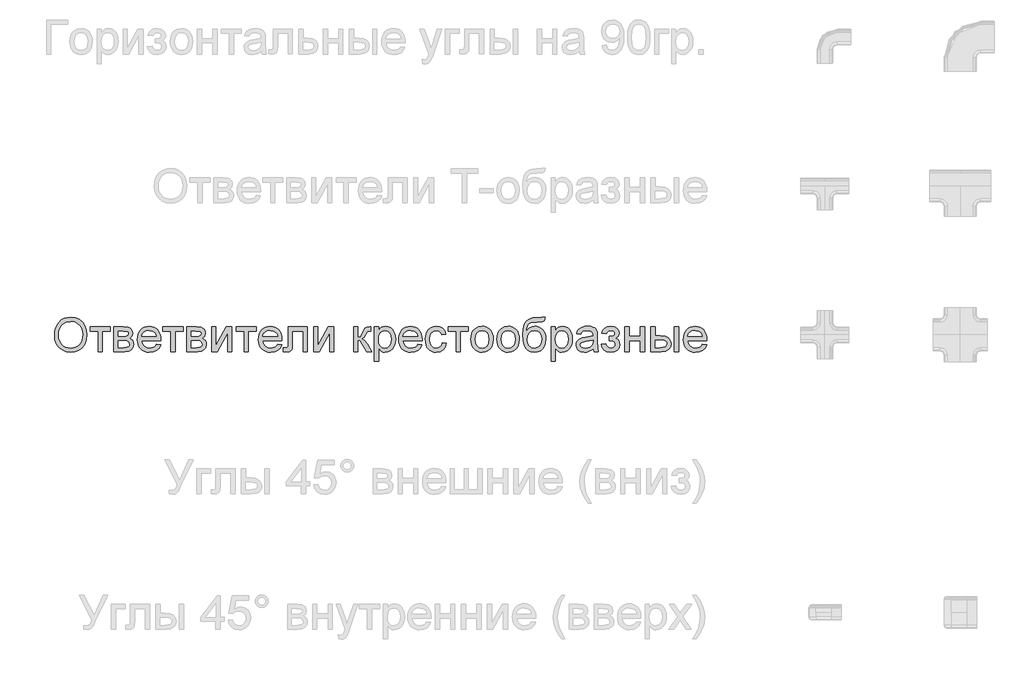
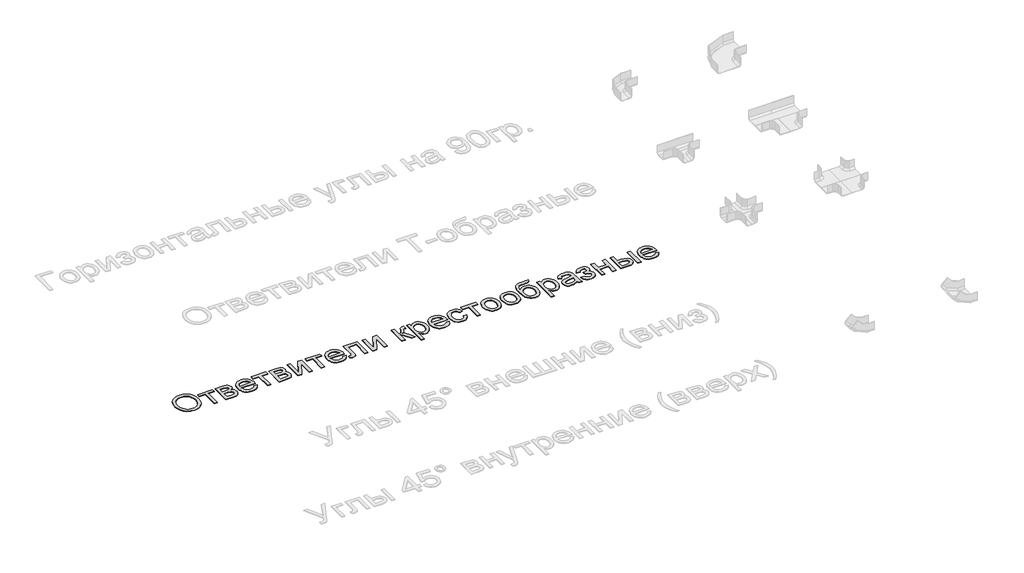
# One storey, part 5 of 11: 1 proxy.
"""IFC4 building model written with IfcOpenShell, lengths in millimetres."""

from ifc_helpers import new_model, si_unit, origin, origin_with_axes, place, context, project, spatial, polyline, outline, extrude, element, save

model = new_model("IFC4")

# Units and contexts
model_context = context("Model", 3, world=origin())
ifc_project = project(units=[si_unit("LENGTHUNIT", "METRE", prefix="MILLI")], contexts=[model_context])

# Site, building, storey
site = spatial("IfcSite", under=ifc_project)
building = spatial("IfcBuilding", under=site)
storey = spatial("IfcBuildingStorey", under=building, Name="Этаж 01", Elevation=0.0)

# Proxy
placement = place(None, origin())
element("IfcBuildingElementProxy", 1, Name="АБН_Маленькая надпись", ObjectType="АБН_Маленькая надпись", at=placement, inside=storey, context=model_context, shape_type="SweptSolid", body=[
    extrude(outline(polyline([(-19409.3931179, 4703.789007), (-19407.300789, 4733.2463913), (-19401.0238025, 4759.3238599), (-19390.5621583, 4782.0214125), (-19375.9158563, 4801.3390494), (-19357.9624485, 4816.7632685), (-19337.5794868, 4827.7805678), (-19314.7669709, 4834.3909474), (-19289.5249011, 4836.5944073), (-19256.5841341, 4832.4557348), (-19227.0462756, 4820.0397175), (-19202.5208093, 4800.220075), (-19184.6172188, 4773.8705271), (-19173.6727295, 4742.2633323), (-19170.0245664, 4706.6707493), (-19173.8643347, 4670.6029854), (-19185.3836397, 4638.5512665), (-19203.946352, 4612.1557334), (-19228.9163424, 4593.0565265), (-19258.2012821, 4581.4682436), (-19289.7088421, 4577.6054827), (-19323.1554469, 4581.8744466), (-19352.861918, 4594.6813386), (-19377.3260706, 4614.8688631), (-19395.0457201, 4641.2797247), (-19405.8062684, 4671.6683103), (-19409.3931179, 4703.789007)]), holes=[polyline([(-19378.000521, 4703.4824387), (-19376.4312743, 4682.6702812), (-19371.7235344, 4664.1957073), (-19363.8773013, 4648.0587168), (-19352.8925748, 4634.2593099), (-19339.539608, 4623.2075216), (-19324.5886538, 4615.3133872), (-19308.0397122, 4610.5769065), (-19289.8927831, 4608.9980796), (-19271.4354537, 4610.5922349), (-19254.6910747, 4615.3747008), (-19239.6596463, 4623.3454774), (-19226.3411685, 4634.5045646), (-19215.4369162, 4648.5952114), (-19207.6481646, 4665.3606669), (-19202.9749136, 4684.8009311), (-19201.4171633, 4706.916004), (-19204.0843078, 4734.706423), (-19212.0857411, 4758.7260516), (-19225.2145299, 4778.3694173), (-19243.2637402, 4793.0310477), (-19265.0377558, 4802.1591197), (-19289.3409601, 4805.2018103), (-19323.1094616, 4799.338691), (-19351.8195856, 4781.7493331), (-19363.2737449, 4768.0629733), (-19371.4552871, 4750.4563709), (-19376.3642125, 4728.9295261), (-19378.000521, 4703.4824387)])]), origin_with_axes(), (0.0, 0.0, 1.0), 5.0),
    extrude(outline(polyline([(-19146.4801187, 4765.9610642), (-18997.3652833, 4765.9610642), (-18997.3652833, 4734.5684673), (-19056.2264025, 4734.5684673), (-19056.2264025, 4581.5295573), (-19087.6189994, 4581.5295573), (-19087.6189994, 4734.5684673), (-19146.4801187, 4734.5684673), (-19146.4801187, 4765.9610642)])), origin_with_axes(), (0.0, 0.0, 1.0), 5.0),
    extrude(outline(polyline([(-18969.896761, 4765.9610642), (-18900.7349459, 4765.9610642), (-18862.8124436, 4761.7610781), (-18851.270146, 4755.8136525), (-18841.4752878, 4746.3713479), (-18834.7844341, 4734.0702937), (-18832.5541495, 4719.5466191), (-18837.9497521, 4697.7496109), (-18854.1978735, 4682.2065966), (-18842.5789338, 4675.6843554), (-18833.1059724, 4665.1920543), (-18826.8059933, 4651.5574279), (-18824.7060002, 4635.6082106), (-18830.0249607, 4611.6805525), (-18842.6709043, 4594.8346228), (-18862.6898162, 4584.8558236), (-18890.1276817, 4581.5295573), (-18969.896761, 4581.5295573), (-18969.896761, 4765.9610642)]), holes=[polyline([(-18938.5041641, 4695.3277211), (-18907.4794491, 4695.3277211), (-18881.8809936, 4696.9218764), (-18869.4343195, 4703.2984977), (-18863.9467464, 4714.8254669), (-18866.3533078, 4724.1911293), (-18873.5729919, 4730.215197), (-18906.4984305, 4734.5684673), (-18938.5041641, 4734.5684673), (-18938.5041641, 4695.3277211)]), polyline([(-18938.5041641, 4612.9221542), (-18899.9991819, 4612.9221542), (-18879.0145798, 4614.3400327), (-18865.84747, 4618.5936683), (-18858.78107, 4626.3268544), (-18856.0985971, 4638.1833845), (-18861.4635429, 4653.2972032), (-18875.4430587, 4662.0957142), (-18903.0648652, 4663.9351242), (-18938.5041641, 4663.9351242), (-18938.5041641, 4612.9221542)])]), origin_with_axes(), (0.0, 0.0, 1.0), 5.0),
    extrude(outline(polyline([(-18656.3386738, 4636.4666019), (-18625.5592135, 4632.5425273), (-18636.6493228, 4609.3506332), (-18654.3459796, 4592.0141941), (-18678.2506451, 4581.2076605), (-18707.9647804, 4577.6054827), (-18727.4433656, 4579.1594009), (-18744.7989652, 4583.8211555), (-18760.0315791, 4591.5907466), (-18773.1412072, 4602.4681742), (-18783.6833257, 4616.1507019), (-18791.2134102, 4632.3355937), (-18795.731461, 4651.0228494), (-18797.2374779, 4672.2124691), (-18795.7161326, 4694.1206083), (-18791.1520966, 4713.430581), (-18783.5453699, 4730.142387), (-18772.8959526, 4744.2560265), (-18759.8208133, 4755.4687631), (-18744.9369209, 4763.4778607), (-18728.2442754, 4768.2833193), (-18709.7428767, 4769.8851388), (-18691.8373703, 4768.2871514), (-18675.6448143, 4763.4931891), (-18661.1652089, 4755.5032521), (-18648.398554, 4744.3173401), (-18637.9771469, 4730.2343575), (-18630.5332846, 4713.5532083), (-18626.0669673, 4694.2738925), (-18624.5781949, 4672.3964101), (-18624.7621358, 4663.9351242), (-18765.844881, 4663.9351242), (-18760.4109574, 4640.4366618), (-18747.7880064, 4623.1615364), (-18729.5701834, 4612.5389438), (-18707.3516438, 4608.9980796), (-18690.6436698, 4610.6382201), (-18676.5721835, 4615.5586418), (-18665.1371848, 4624.065913), (-18656.3386738, 4636.4666019)]), holes=[polyline([(-18765.844881, 4695.3277211), (-18655.9707918, 4695.3277211), (-18660.2167631, 4711.9130677), (-18668.5400933, 4723.7772621), (-18686.8422225, 4734.8137219), (-18709.8655041, 4738.4925419), (-18731.026383, 4735.5571501), (-18748.5237704, 4726.7509749), (-18760.6868689, 4713.0243779), (-18765.844881, 4695.3277211)])]), origin_with_axes(), (0.0, 0.0, 1.0), 5.0),
    extrude(outline(polyline([(-18608.8818964, 4765.9610642), (-18459.767061, 4765.9610642), (-18459.767061, 4734.5684673), (-18518.6281802, 4734.5684673), (-18518.6281802, 4581.5295573), (-18550.0207772, 4581.5295573), (-18550.0207772, 4734.5684673), (-18608.8818964, 4734.5684673), (-18608.8818964, 4765.9610642)])), origin_with_axes(), (0.0, 0.0, 1.0), 5.0),
    extrude(outline(polyline([(-18432.2985387, 4765.9610642), (-18363.1367236, 4765.9610642), (-18325.2142213, 4761.7610781), (-18313.6719237, 4755.8136525), (-18303.8770656, 4746.3713479), (-18297.1862118, 4734.0702937), (-18294.9559272, 4719.5466191), (-18300.3515298, 4697.7496109), (-18316.5996512, 4682.2065966), (-18304.9807115, 4675.6843554), (-18295.5077502, 4665.1920543), (-18289.207771, 4651.5574279), (-18287.1077779, 4635.6082106), (-18292.4267385, 4611.6805525), (-18305.072682, 4594.8346228), (-18325.0915939, 4584.8558236), (-18352.5294594, 4581.5295573), (-18432.2985387, 4581.5295573), (-18432.2985387, 4765.9610642)]), holes=[polyline([(-18400.9059418, 4695.3277211), (-18369.8812269, 4695.3277211), (-18344.2827714, 4696.9218764), (-18331.8360972, 4703.2984977), (-18326.3485241, 4714.8254669), (-18328.7550855, 4724.1911293), (-18335.9747696, 4730.215197), (-18368.9002082, 4734.5684673), (-18400.9059418, 4734.5684673), (-18400.9059418, 4695.3277211)]), polyline([(-18400.9059418, 4612.9221542), (-18362.4009596, 4612.9221542), (-18341.4163575, 4614.3400327), (-18328.2492477, 4618.5936683), (-18321.1828477, 4626.3268544), (-18318.5003749, 4638.1833845), (-18323.8653206, 4653.2972032), (-18337.8448364, 4662.0957142), (-18365.4666429, 4663.9351242), (-18400.9059418, 4663.9351242), (-18400.9059418, 4612.9221542)])]), origin_with_axes(), (0.0, 0.0, 1.0), 5.0),
    extrude(outline(polyline([(-18247.8670318, 4765.9610642), (-18216.4744349, 4765.9610642), (-18216.4744349, 4625.3075147), (-18139.3418432, 4765.9610642), (-18098.7521964, 4765.9610642), (-18098.7521964, 4581.5295573), (-18130.1447933, 4581.5295573), (-18130.1447933, 4721.3247154), (-18206.7868757, 4581.5295573), (-18247.8670318, 4581.5295573), (-18247.8670318, 4765.9610642)])), origin_with_axes(), (0.0, 0.0, 1.0), 5.0),
    extrude(outline(polyline([(-18067.3595995, 4765.9610642), (-17918.2447641, 4765.9610642), (-17918.2447641, 4734.5684673), (-17977.1058833, 4734.5684673), (-17977.1058833, 4581.5295573), (-18008.4984803, 4581.5295573), (-18008.4984803, 4734.5684673), (-18067.3595995, 4734.5684673), (-18067.3595995, 4765.9610642)])), origin_with_axes(), (0.0, 0.0, 1.0), 5.0),
    extrude(outline(polyline([(-17761.6496615, 4636.4666019), (-17730.8702012, 4632.5425273), (-17741.9603105, 4609.3506332), (-17759.6569674, 4592.0141941), (-17783.5616328, 4581.2076605), (-17813.2757682, 4577.6054827), (-17832.7543534, 4579.1594009), (-17850.1099529, 4583.8211555), (-17865.3425668, 4591.5907466), (-17878.452195, 4602.4681742), (-17888.9943134, 4616.1507019), (-17896.524398, 4632.3355937), (-17901.0424487, 4651.0228494), (-17902.5484657, 4672.2124691), (-17901.0271203, 4694.1206083), (-17896.4630843, 4713.430581), (-17888.8563576, 4730.142387), (-17878.2069403, 4744.2560265), (-17865.1318011, 4755.4687631), (-17850.2479087, 4763.4778607), (-17833.5552631, 4768.2833193), (-17815.0538645, 4769.8851388), (-17797.148358, 4768.2871514), (-17780.955802, 4763.4931891), (-17766.4761966, 4755.5032521), (-17753.7095418, 4744.3173401), (-17743.2881346, 4730.2343575), (-17735.8442724, 4713.5532083), (-17731.377955, 4694.2738925), (-17729.8891826, 4672.3964101), (-17730.0731236, 4663.9351242), (-17871.1558687, 4663.9351242), (-17865.7219451, 4640.4366618), (-17853.0989941, 4623.1615364), (-17834.8811712, 4612.5389438), (-17812.6626315, 4608.9980796), (-17795.9546575, 4610.6382201), (-17781.8831712, 4615.5586418), (-17770.4481725, 4624.065913), (-17761.6496615, 4636.4666019)]), holes=[polyline([(-17871.1558687, 4695.3277211), (-17761.2817795, 4695.3277211), (-17765.5277509, 4711.9130677), (-17773.851081, 4723.7772621), (-17792.1532103, 4734.8137219), (-17815.1764918, 4738.4925419), (-17836.3373707, 4735.5571501), (-17853.8347581, 4726.7509749), (-17865.9978566, 4713.0243779), (-17871.1558687, 4695.3277211)])]), origin_with_axes(), (0.0, 0.0, 1.0), 5.0),
    extrude(outline(polyline([(-17682.8002872, 4765.9610642), (-17541.5336011, 4765.9610642), (-17541.5336011, 4581.7134983), (-17572.926198, 4581.7134983), (-17572.926198, 4734.5684673), (-17651.4076903, 4734.5684673), (-17651.4076903, 4646.5833568), (-17653.5230117, 4605.99371), (-17657.4854074, 4596.8043243), (-17665.1419514, 4588.8565403), (-17676.7608911, 4583.361303), (-17692.6104737, 4581.5295573), (-17718.1169587, 4583.1237126), (-17718.1169587, 4612.9221542), (-17704.0761293, 4612.9221542), (-17689.8820156, 4614.8535347), (-17684.2105015, 4620.9849013), (-17682.8002872, 4648.3614531), (-17682.8002872, 4765.9610642)])), origin_with_axes(), (0.0, 0.0, 1.0), 5.0),
    extrude(outline(polyline([(-17494.4447057, 4765.9610642), (-17463.0521087, 4765.9610642), (-17463.0521087, 4625.3075147), (-17385.9195171, 4765.9610642), (-17345.3298703, 4765.9610642), (-17345.3298703, 4581.5295573), (-17376.7224672, 4581.5295573), (-17376.7224672, 4721.3247154), (-17453.3645495, 4581.5295573), (-17494.4447057, 4581.5295573), (-17494.4447057, 4765.9610642)])), origin_with_axes(), (0.0, 0.0, 1.0), 5.0),
    extrude(outline(polyline([(-17200.1391095, 4765.9610642), (-17168.7465126, 4765.9610642), (-17168.7465126, 4687.4795719), (-17155.9779417, 4688.8897862), (-17147.7159252, 4693.1204291), (-17130.4867851, 4725.984554), (-17116.1700441, 4754.3421245), (-17103.539429, 4763.5698312), (-17080.5774611, 4765.9610642), (-17074.5687218, 4765.9610642), (-17074.5687218, 4734.3845263), (-17083.0300077, 4734.5684673), (-17098.3584242, 4731.2575293), (-17109.1496294, 4710.5948239), (-17121.8109014, 4688.2459927), (-17139.5612077, 4677.3015034), (-17119.7568936, 4665.0847554), (-17100.3204615, 4639.3483442), (-17066.7205726, 4581.5295573), (-17102.4051261, 4581.5295573), (-17135.3305647, 4638.1220709), (-17151.8852545, 4662.0650574), (-17159.6261048, 4666.4106635), (-17168.7465126, 4667.8591988), (-17168.7465126, 4581.5295573), (-17200.1391095, 4581.5295573), (-17200.1391095, 4765.9610642)])), origin_with_axes(), (0.0, 0.0, 1.0), 5.0),
    extrude(outline(polyline([(-17047.1001995, 4510.8962142), (-17047.1001995, 4765.9610642), (-17015.7076026, 4765.9610642), (-17015.7076026, 4735.1816039), (-17005.4682204, 4750.3644004), (-16994.0025649, 4761.2092551), (-16980.6361857, 4767.7161679), (-16964.6946326, 4769.8851388), (-16943.4647758, 4766.8501123), (-16924.9020635, 4757.745033), (-16909.7882448, 4743.1217237), (-16898.9050691, 4723.5320074), (-16892.3291785, 4700.401427), (-16890.1372149, 4675.155525), (-16892.6127542, 4648.3078036), (-16900.039372, 4624.2958392), (-16912.1794778, 4604.338241), (-16928.7954813, 4589.653618), (-16948.147607, 4580.6175165), (-16968.4960799, 4577.6054827), (-16982.927784, 4579.6211694), (-16995.811318, 4585.6682297), (-17015.7076026, 4606.0550236), (-17015.7076026, 4510.8962142), (-17047.1001995, 4510.8962142)]), holes=[polyline([(-17015.7076026, 4672.2737828), (-17012.3123584, 4644.1308101), (-17002.1266256, 4624.4491234), (-16987.0971133, 4612.8608405), (-16969.1705302, 4608.9980796), (-16950.9527073, 4612.9987963), (-16935.5399845, 4625.0009464), (-16925.032355, 4645.4030687), (-16921.5298118, 4674.6037021), (-16924.9480487, 4702.5933905), (-16935.2027593, 4722.5509888), (-16950.2092791, 4734.5071536), (-16967.8829432, 4738.4925419), (-16985.6255853, 4734.2542347), (-17001.2069206, 4721.5393133), (-17012.0824321, 4700.7463163), (-17015.7076026, 4672.2737828)])]), origin_with_axes(), (0.0, 0.0, 1.0), 5.0),
    extrude(outline(polyline([(-16725.6939631, 4636.4666019), (-16694.9145028, 4632.5425273), (-16706.0046121, 4609.3506332), (-16723.7012689, 4592.0141941), (-16747.6059344, 4581.2076605), (-16777.3200697, 4577.6054827), (-16796.798655, 4579.1594009), (-16814.1542545, 4583.8211555), (-16829.3868684, 4591.5907466), (-16842.4964965, 4602.4681742), (-16853.038615, 4616.1507019), (-16860.5686996, 4632.3355937), (-16865.0867503, 4651.0228494), (-16866.5927672, 4672.2124691), (-16865.0714219, 4694.1206083), (-16860.5073859, 4713.430581), (-16852.9006592, 4730.142387), (-16842.2512419, 4744.2560265), (-16829.1761026, 4755.4687631), (-16814.2922103, 4763.4778607), (-16797.5995647, 4768.2833193), (-16779.098166, 4769.8851388), (-16761.1926596, 4768.2871514), (-16745.0001036, 4763.4931891), (-16730.5204982, 4755.5032521), (-16717.7538434, 4744.3173401), (-16707.3324362, 4730.2343575), (-16699.888574, 4713.5532083), (-16695.4222566, 4694.2738925), (-16693.9334842, 4672.3964101), (-16694.1174252, 4663.9351242), (-16835.2001703, 4663.9351242), (-16829.7662467, 4640.4366618), (-16817.1432957, 4623.1615364), (-16798.9254727, 4612.5389438), (-16776.7069331, 4608.9980796), (-16759.9989591, 4610.6382201), (-16745.9274728, 4615.5586418), (-16734.4924741, 4624.065913), (-16725.6939631, 4636.4666019)]), holes=[polyline([(-16835.2001703, 4695.3277211), (-16725.3260811, 4695.3277211), (-16729.5720524, 4711.9130677), (-16737.8953826, 4723.7772621), (-16756.1975118, 4734.8137219), (-16779.2207934, 4738.4925419), (-16800.3816723, 4735.5571501), (-16817.8790597, 4726.7509749), (-16830.0421582, 4713.0243779), (-16835.2001703, 4695.3277211)])]), origin_with_axes(), (0.0, 0.0, 1.0), 5.0),
    extrude(outline(polyline([(-16544.8186488, 4648.2388257), (-16513.4260519, 4644.3147511), (-16522.1785777, 4616.3940405), (-16538.6259685, 4595.2944753), (-16561.2200544, 4582.0277308), (-16588.4126652, 4577.6054827), (-16606.0192676, 4579.1479046), (-16621.8056205, 4583.7751703), (-16635.7717239, 4591.4872798), (-16647.9175779, 4602.2842332), (-16657.748841, 4615.9629288), (-16664.7711718, 4632.3202652), (-16670.3890365, 4673.0708604), (-16667.9901393, 4701.0068994), (-16660.7934478, 4725.2181332), (-16648.6839988, 4744.7695284), (-16631.5468291, 4758.7260516), (-16611.0450721, 4767.095367), (-16588.8418609, 4769.8851388), (-16562.3160362, 4766.0530347), (-16541.109172, 4754.5567223), (-16525.8957187, 4736.0093384), (-16517.3501265, 4711.0240196), (-16548.7427234, 4707.099945), (-16554.4372301, 4720.7958851), (-16563.304719, 4730.6137358), (-16574.8546808, 4736.5228404), (-16588.5966062, 4738.4925419), (-16608.8837654, 4734.6144525), (-16624.9862669, 4722.9801844), (-16635.4938964, 4702.9612725), (-16638.9964395, 4673.9292517), (-16635.5705385, 4644.5063563), (-16625.2928352, 4624.4184665), (-16609.4815736, 4612.8531763), (-16589.4549975, 4608.9980796), (-16573.1992119, 4611.404641), (-16559.8711538, 4618.6243251), (-16550.1759303, 4630.841073), (-16544.8186488, 4648.2388257)])), origin_with_axes(), (0.0, 0.0, 1.0), 5.0),
    extrude(outline(polyline([(-16501.653828, 4765.9610642), (-16352.5389926, 4765.9610642), (-16352.5389926, 4734.5684673), (-16411.4001119, 4734.5684673), (-16411.4001119, 4581.5295573), (-16442.7927088, 4581.5295573), (-16442.7927088, 4734.5684673), (-16501.653828, 4734.5684673), (-16501.653828, 4765.9610642)])), origin_with_axes(), (0.0, 0.0, 1.0), 5.0),
    extrude(outline(polyline([(-16332.9186196, 4673.7453107), (-16331.2209974, 4697.6308157), (-16326.1281311, 4718.2130469), (-16317.6400205, 4735.4920044), (-16305.7566656, 4749.4676881), (-16280.5874057, 4764.7807761), (-16250.451739, 4769.8851388), (-16233.1325444, 4768.3312206), (-16217.472651, 4763.6694659), (-16203.4720586, 4755.8998748), (-16191.1307673, 4745.0224473), (-16181.0580816, 4731.4050653), (-16173.8633061, 4715.4156109), (-16169.5464408, 4697.054084), (-16168.1074857, 4676.3204847), (-16170.6520029, 4644.605991), (-16178.2855543, 4620.4637351), (-16190.7858779, 4602.3838679), (-16207.9307117, 4588.8565403), (-16228.294513, 4580.4182471), (-16250.451739, 4577.6054827), (-16268.0238524, 4579.1536527), (-16283.8293658, 4583.7981629), (-16297.8682793, 4591.5390132), (-16310.1405927, 4602.3762037), (-16320.1059794, 4616.1257932), (-16327.2241128, 4632.6038409), (-16331.4949929, 4651.8103468), (-16332.9186196, 4673.7453107)]), holes=[polyline([(-16301.5260226, 4673.8066244), (-16297.8931879, 4645.3954045), (-16286.9946838, 4625.1542305), (-16270.5932782, 4613.0371173), (-16250.451739, 4608.9980796), (-16230.4021702, 4613.0601099), (-16214.0314215, 4625.246201), (-16203.1329173, 4645.7556223), (-16199.5000826, 4674.7876431), (-16203.15591, 4702.3711285), (-16214.123392, 4722.3363909), (-16230.5171334, 4734.4535041), (-16250.451739, 4738.4925419), (-16270.5932782, 4734.4688326), (-16286.9946838, 4722.3977046), (-16297.8931879, 4702.2025159), (-16301.5260226, 4673.8066244)])]), origin_with_axes(), (0.0, 0.0, 1.0), 5.0),
    extrude(outline(polyline([(-16140.6389634, 4673.7453107), (-16138.9413413, 4697.6308157), (-16133.8484749, 4718.2130469), (-16125.3603643, 4735.4920044), (-16113.4770094, 4749.4676881), (-16088.3077496, 4764.7807761), (-16058.1720828, 4769.8851388), (-16040.8528883, 4768.3312206), (-16025.1929948, 4763.6694659), (-16011.1924024, 4755.8998748), (-15998.8511111, 4745.0224473), (-15988.7784254, 4731.4050653), (-15981.58365, 4715.4156109), (-15977.2667847, 4697.054084), (-15975.8278296, 4676.3204847), (-15978.3723467, 4644.605991), (-15986.0058981, 4620.4637351), (-15998.5062217, 4602.3838679), (-16015.6510556, 4588.8565403), (-16036.0148568, 4580.4182471), (-16058.1720828, 4577.6054827), (-16075.7441963, 4579.1536527), (-16091.5497097, 4583.7981629), (-16105.5886231, 4591.5390132), (-16117.8609365, 4602.3762037), (-16127.8263233, 4616.1257932), (-16134.9444567, 4632.6038409), (-16139.2153367, 4651.8103468), (-16140.6389634, 4673.7453107)]), holes=[polyline([(-16109.2463665, 4673.8066244), (-16105.6135318, 4645.3954045), (-16094.7150277, 4625.1542305), (-16078.3136221, 4613.0371173), (-16058.1720828, 4608.9980796), (-16038.1225141, 4613.0601099), (-16021.7517653, 4625.246201), (-16010.8532612, 4645.7556223), (-16007.2204265, 4674.7876431), (-16010.8762538, 4702.3711285), (-16021.8437358, 4722.3363909), (-16038.2374772, 4734.4535041), (-16058.1720828, 4738.4925419), (-16078.3136221, 4734.4688326), (-16094.7150277, 4722.3977046), (-16105.6135318, 4702.2025159), (-16109.2463665, 4673.8066244)])]), origin_with_axes(), (0.0, 0.0, 1.0), 5.0),
    extrude(outline(polyline([(-15811.0166957, 4836.5944073), (-15783.5481734, 4836.5944073), (-15786.5218862, 4821.6721938), (-15791.6415773, 4812.0995978), (-15807.6444441, 4803.239773), (-15846.0881126, 4801.2777357), (-15878.0095399, 4799.4689826), (-15897.8675034, 4794.0427232), (-15909.7470262, 4784.6310754), (-15917.7331312, 4770.8661575), (-15922.4312908, 4752.6406703), (-15924.4469776, 4729.847315), (-15911.8240266, 4747.3830234), (-15897.2543668, 4759.8910113), (-15880.7226696, 4767.3866069), (-15862.2136067, 4769.8851388), (-15845.1109261, 4768.2967316), (-15829.5487512, 4763.5315102), (-15815.5270823, 4755.5894744), (-15803.0459192, 4744.4706243), (-15792.7988728, 4730.6424766), (-15785.4795539, 4714.572548), (-15781.0879626, 4696.2608385), (-15779.6240988, 4675.707348), (-15782.5288337, 4645.7402938), (-15791.2430385, 4621.6900084), (-15803.9426315, 4602.9970045), (-15818.8035313, 4589.101795), (-15837.6268267, 4580.4795607), (-15862.2136067, 4577.6054827), (-15890.5481846, 4581.3072952), (-15911.7857056, 4592.412733), (-15927.4130262, 4609.2893195), (-15938.9170027, 4630.3045785), (-15945.9987311, 4661.9500943), (-15948.3593073, 4710.7174512), (-15946.8705348, 4743.7712653), (-15942.4042175, 4770.9504637), (-15934.9603552, 4792.2550466), (-15924.5389481, 4807.6850138), (-15911.028865, 4818.6160908), (-15894.318975, 4826.4240029), (-15874.4092781, 4831.1087502), (-15851.2997742, 4832.6703326), (-15816.3509847, 4833.3754398), (-15811.0166957, 4836.5944073)]), holes=[polyline([(-15811.0166957, 4676.6883667), (-15814.4196042, 4701.3901098), (-15824.6283296, 4721.1714313), (-15841.0297352, 4734.1622642), (-15863.0106844, 4738.4925419), (-15885.926667, 4733.9170096), (-15902.9258809, 4720.1904126), (-15913.456503, 4698.8149359), (-15916.9667103, 4671.2927641), (-15913.088621, 4644.6136552), (-15901.4543529, 4625.0316032), (-15884.1332423, 4613.0064605), (-15863.1946254, 4608.9980796), (-15842.1487096, 4613.6349256), (-15825.4867209, 4627.5454635), (-15814.634202, 4649.1048813), (-15811.0166957, 4676.6883667)])]), origin_with_axes(), (0.0, 0.0, 1.0), 5.0),
    extrude(outline(polyline([(-15740.3833527, 4510.8962142), (-15740.3833527, 4765.9610642), (-15708.9907557, 4765.9610642), (-15708.9907557, 4735.1816039), (-15698.7513735, 4750.3644004), (-15687.285718, 4761.2092551), (-15673.9193389, 4767.7161679), (-15657.9777857, 4769.8851388), (-15636.7479289, 4766.8501123), (-15618.1852166, 4757.745033), (-15603.071398, 4743.1217237), (-15592.1882223, 4723.5320074), (-15585.6123316, 4700.401427), (-15583.4203681, 4675.155525), (-15585.8959073, 4648.3078036), (-15593.3225251, 4624.2958392), (-15605.4626309, 4604.338241), (-15622.0786344, 4589.653618), (-15641.4307602, 4580.6175165), (-15661.779233, 4577.6054827), (-15676.2109371, 4579.6211694), (-15689.0944712, 4585.6682297), (-15708.9907557, 4606.0550236), (-15708.9907557, 4510.8962142), (-15740.3833527, 4510.8962142)]), holes=[polyline([(-15708.9907557, 4672.2737828), (-15705.5955115, 4644.1308101), (-15695.4097788, 4624.4491234), (-15680.3802664, 4612.8608405), (-15662.4536834, 4608.9980796), (-15644.2358604, 4612.9987963), (-15628.8231376, 4625.0009464), (-15618.3155081, 4645.4030687), (-15614.812965, 4674.6037021), (-15618.2312018, 4702.5933905), (-15628.4859125, 4722.5509888), (-15643.4924322, 4734.5071536), (-15661.1660964, 4738.4925419), (-15678.9087384, 4734.2542347), (-15694.4900738, 4721.5393133), (-15705.3655852, 4700.7463163), (-15708.9907557, 4672.2737828)])]), origin_with_axes(), (0.0, 0.0, 1.0), 5.0),
    extrude(outline(polyline([(-15430.3814581, 4605.074005), (-15445.3803136, 4592.2134636), (-15460.8236932, 4583.7981629), (-15477.0641504, 4579.1536527), (-15494.4542389, 4577.6054827), (-15520.6888237, 4581.3302879), (-15540.0409495, 4592.5047035), (-15551.9741217, 4609.4732605), (-15555.9518457, 4630.58049), (-15554.4496609, 4643.5943155), (-15549.9431065, 4655.4125246), (-15534.1548375, 4673.4387424), (-15512.1738883, 4683.7394383), (-15485.0119343, 4688.4605905), (-15430.5653991, 4699.2517957), (-15430.3814581, 4706.2415536), (-15432.5427648, 4720.2517263), (-15439.0266849, 4729.4181193), (-15453.5273669, 4736.2239362), (-15473.7302198, 4738.4925419), (-15492.4308879, 4736.9826929), (-15505.4906987, 4732.4531458), (-15514.3965087, 4724.0761662), (-15520.6351742, 4711.0240196), (-15552.0277711, 4714.9480942), (-15546.5785191, 4732.1159206), (-15538.4467941, 4745.6049271), (-15526.8738397, 4755.9209514), (-15511.1008992, 4763.5698312), (-15491.810087, 4768.3063119), (-15469.6835179, 4769.8851388), (-15448.4613253, 4768.4902529), (-15431.6383882, 4764.3055952), (-15418.9541236, 4758.0132803), (-15410.1479483, 4750.2954226), (-15400.5217028, 4728.9889237), (-15398.9888611, 4701.5204014), (-15398.9888611, 4662.4635962), (-15397.3947058, 4607.9250904), (-15391.1407119, 4581.5295573), (-15422.5333088, 4581.5295573), (-15430.3814581, 4605.074005)]), holes=[polyline([(-15430.3814581, 4667.8591988), (-15481.0265461, 4658.2329533), (-15508.0352159, 4653.143919), (-15520.2672922, 4644.8665741), (-15524.5592488, 4632.7877819), (-15522.2216653, 4623.4527763), (-15515.2089148, 4615.8038965), (-15503.6742814, 4610.6995338), (-15487.7710493, 4608.9980796), (-15470.9097912, 4610.8758106), (-15456.0105704, 4616.5090036), (-15443.9317782, 4624.8093412), (-15435.531806, 4634.6885056), (-15431.8070008, 4644.8665741), (-15430.5653991, 4658.9687173), (-15430.3814581, 4667.8591988)])]), origin_with_axes(), (0.0, 0.0, 1.0), 5.0),
    extrude(outline(polyline([(-15312.6592196, 4663.9351242), (-15312.6592196, 4695.3277211), (-15287.8884986, 4696.5539944), (-15275.3805108, 4703.0838998), (-15270.9659268, 4709.2076022), (-15269.4943988, 4716.7261905), (-15271.4641004, 4725.6549931), (-15277.3732049, 4732.5757731), (-15286.393978, 4737.0133497), (-15297.6986851, 4738.4925419), (-15309.1260196, 4737.0210139), (-15318.6986157, 4732.60643), (-15326.4164734, 4725.2487901), (-15332.2795927, 4714.9480942), (-15367.5962642, 4718.8721688), (-15358.2306018, 4741.1903432), (-15343.9905029, 4757.1318963), (-15324.8759675, 4766.6968282), (-15300.8869958, 4769.8851388), (-15274.6447468, 4765.9993852), (-15254.779119, 4754.3421245), (-15242.2711312, 4737.2892612), (-15238.1018019, 4717.2166998), (-15244.0338991, 4697.7189541), (-15261.8301906, 4682.6357923), (-15249.7130774, 4673.9139233), (-15241.0755147, 4663.0767329), (-15235.9021742, 4650.0935641), (-15234.1777273, 4634.9337602), (-15238.5539902, 4611.8261724), (-15251.6827789, 4593.516379), (-15272.6750453, 4581.5832067), (-15300.6417411, 4577.6054827), (-15327.9953003, 4581.2843026), (-15348.926253, 4592.3207625), (-15363.4345991, 4610.7148622), (-15371.5203388, 4636.4666019), (-15336.2036673, 4640.3906765), (-15330.9153636, 4627.1162678), (-15322.0402105, 4617.2141108), (-15310.6052118, 4611.0520874), (-15297.6373715, 4608.9980796), (-15285.0067563, 4610.9677811), (-15274.7060604, 4616.8768856), (-15267.8542583, 4625.8516735), (-15265.5703242, 4637.0184249), (-15271.2418383, 4653.511801), (-15283.3206305, 4662.3409689), (-15306.527853, 4664.1190652), (-15312.6592196, 4663.9351242)])), origin_with_axes(), (0.0, 0.0, 1.0), 5.0),
    extrude(outline(polyline([(-15194.9369811, 4765.9610642), (-15163.5443842, 4765.9610642), (-15163.5443842, 4695.3277211), (-15081.1388173, 4695.3277211), (-15081.1388173, 4765.9610642), (-15049.7462204, 4765.9610642), (-15049.7462204, 4581.5295573), (-15081.1388173, 4581.5295573), (-15081.1388173, 4663.9351242), (-15163.5443842, 4663.9351242), (-15163.5443842, 4581.5295573), (-15194.9369811, 4581.5295573), (-15194.9369811, 4765.9610642)])), origin_with_axes(), (0.0, 0.0, 1.0), 5.0),
    extrude(outline(polyline([(-14829.9980419, 4765.9610642), (-14798.605445, 4765.9610642), (-14798.605445, 4581.5295573), (-14829.9980419, 4581.5295573), (-14829.9980419, 4765.9610642)])), origin_with_axes(), (0.0, 0.0, 1.0), 5.0),
    extrude(outline(polyline([(-15002.657325, 4765.9610642), (-14971.2647281, 4765.9610642), (-14971.2647281, 4699.2517957), (-14932.4531776, 4699.2517957), (-14898.9069382, 4695.3200569), (-14874.0519109, 4683.5248404), (-14858.6698449, 4664.8165081), (-14853.5424896, 4640.1454218), (-14857.8421104, 4617.6816275), (-14870.7409729, 4598.7280405), (-14893.0821399, 4585.8291781), (-14925.7086743, 4581.5295573), (-15002.657325, 4581.5295573), (-15002.657325, 4765.9610642)]), holes=[polyline([(-14971.2647281, 4612.9221542), (-14939.0137398, 4612.9221542), (-14914.0130926, 4614.569959), (-14897.3817607, 4619.5133733), (-14888.0467551, 4627.9516665), (-14884.9350865, 4640.0841082), (-14887.2420132, 4650.3388188), (-14894.1627933, 4659.3979129), (-14908.9623794, 4665.7438773), (-14934.9057242, 4667.8591988), (-14971.2647281, 4667.8591988), (-14971.2647281, 4612.9221542)])]), origin_with_axes(), (0.0, 0.0, 1.0), 5.0),
    extrude(outline(polyline([(-14622.3899693, 4636.4666019), (-14591.6105091, 4632.5425273), (-14602.7006184, 4609.3506332), (-14620.3972752, 4592.0141941), (-14644.3019407, 4581.2076605), (-14674.016076, 4577.6054827), (-14693.4946612, 4579.1594009), (-14710.8502607, 4583.8211555), (-14726.0828746, 4591.5907466), (-14739.1925028, 4602.4681742), (-14749.7346212, 4616.1507019), (-14757.2647058, 4632.3355937), (-14761.7827566, 4651.0228494), (-14763.2887735, 4672.2124691), (-14761.7674281, 4694.1206083), (-14757.2033921, 4713.430581), (-14749.5966655, 4730.142387), (-14738.9472481, 4744.2560265), (-14725.8721089, 4755.4687631), (-14710.9882165, 4763.4778607), (-14694.295571, 4768.2833193), (-14675.7941723, 4769.8851388), (-14657.8886658, 4768.2871514), (-14641.6961099, 4763.4931891), (-14627.2165045, 4755.5032521), (-14614.4498496, 4744.3173401), (-14604.0284424, 4730.2343575), (-14596.5845802, 4713.5532083), (-14592.1182629, 4694.2738925), (-14590.6294904, 4672.3964101), (-14590.8134314, 4663.9351242), (-14731.8961766, 4663.9351242), (-14726.4622529, 4640.4366618), (-14713.839302, 4623.1615364), (-14695.621479, 4612.5389438), (-14673.4029393, 4608.9980796), (-14656.6949654, 4610.6382201), (-14642.6234791, 4615.5586418), (-14631.1884804, 4624.065913), (-14622.3899693, 4636.4666019)]), holes=[polyline([(-14731.8961766, 4695.3277211), (-14622.0220873, 4695.3277211), (-14626.2680587, 4711.9130677), (-14634.5913888, 4723.7772621), (-14652.8935181, 4734.8137219), (-14675.9167996, 4738.4925419), (-14697.0776786, 4735.5571501), (-14714.5750659, 4726.7509749), (-14726.7381644, 4713.0243779), (-14731.8961766, 4695.3277211)])]), origin_with_axes(), (0.0, 0.0, 1.0), 5.0),
])

save(model, "model.ifc")
